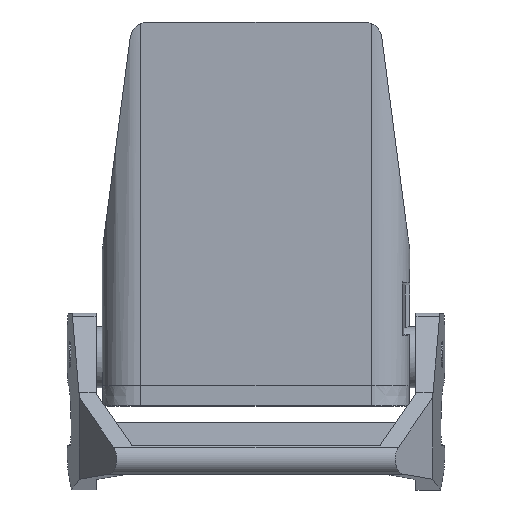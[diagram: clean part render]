
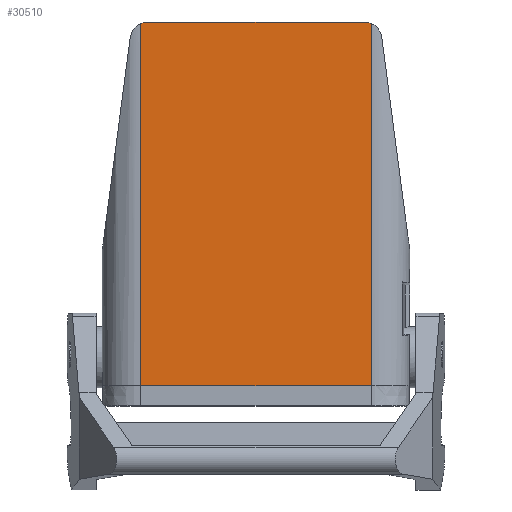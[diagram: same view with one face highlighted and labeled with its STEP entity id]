
A CAD part, top view. The second image highlights one B-rep face of the part: STEP entity #30510.
In plain terms, the highlighted planar face has unit normal (0, -0.014, 1) as drawn and (0, 0.014, 1) by its records, which use the part's own axes.
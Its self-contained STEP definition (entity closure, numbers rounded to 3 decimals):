
#29730=CARTESIAN_POINT('',(22.5,-45.309,
22.904));
#29740=VERTEX_POINT('',#29730);
#29770=CARTESIAN_POINT('',(22.5,25.555,
21.912));
#29780=DIRECTION('',(0.,-1.,
0.014));
#29790=VECTOR('',#29780,1.);
#29800=LINE('',#29770,#29790);
#29810=CARTESIAN_POINT('',(22.5,25.45,
21.913));
#29820=VERTEX_POINT('',#29810);
#29830=EDGE_CURVE('',#29820,#29740,#29800,.T.);
#30030=CARTESIAN_POINT('',(36.,-57.316,
23.072));
#30040=DIRECTION('',(0.,-0.014,
-1.));
#30050=DIRECTION('',(0.,1.,
-0.014));
#30060=AXIS2_PLACEMENT_3D('',#30030,#30040,#30050);
#30070=PLANE('',#30060);
#30080=CARTESIAN_POINT('',(0.,25.45,
21.913));
#30090=DIRECTION('',(-1.,0.,0.));
#30100=VECTOR('',#30090,1.);
#30110=LINE('',#30080,#30100);
#30120=CARTESIAN_POINT('',(-22.5,25.45,
21.913));
#30130=VERTEX_POINT('',#30120);
#30140=EDGE_CURVE('',#29820,#30130,#30110,.T.);
#30150=ORIENTED_EDGE('',*,*,#30140,.T.);
#30160=ORIENTED_EDGE('',*,*,#29830,.F.);
#30170=CARTESIAN_POINT('',(21.103,-42.1,
22.859));
#30180=DIRECTION('',(0.,-0.014,
-1.));
#30190=DIRECTION('',(0.,1.,
-0.014));
#30200=AXIS2_PLACEMENT_3D('',#30170,#30180,#30190);
#30210=ELLIPSE('',#30200,3.5,3.5);
#30220=CARTESIAN_POINT('',(21.103,-45.6,
22.908));
#30230=VERTEX_POINT('',#30220);
#30240=EDGE_CURVE('',#29740,#30230,#30210,.T.);
#30250=ORIENTED_EDGE('',*,*,#30240,.F.);
#30260=CARTESIAN_POINT('',(0.,-45.6,
22.908));
#30270=DIRECTION('',(-1.,0.,0.));
#30280=VECTOR('',#30270,1.);
#30290=LINE('',#30260,#30280);
#30300=CARTESIAN_POINT('',(-21.103,-45.6,
22.908));
#30310=VERTEX_POINT('',#30300);
#30320=EDGE_CURVE('',#30230,#30310,#30290,.T.);
#30330=ORIENTED_EDGE('',*,*,#30320,.F.);
#30340=CARTESIAN_POINT('',(-21.103,-42.1,
22.859));
#30350=DIRECTION('',(0.,-0.014,
-1.));
#30360=DIRECTION('',(0.,1.,
-0.014));
#30370=AXIS2_PLACEMENT_3D('',#30340,#30350,#30360);
#30380=ELLIPSE('',#30370,3.5,3.5);
#30390=CARTESIAN_POINT('',(-22.5,-45.309,
22.904));
#30400=VERTEX_POINT('',#30390);
#30410=EDGE_CURVE('',#30310,#30400,#30380,.T.);
#30420=ORIENTED_EDGE('',*,*,#30410,.F.);
#30430=CARTESIAN_POINT('',(-22.5,25.555,
21.912));
#30440=DIRECTION('',(0.,1.,
-0.014));
#30450=VECTOR('',#30440,1.);
#30460=LINE('',#30430,#30450);
#30470=EDGE_CURVE('',#30400,#30130,#30460,.T.);
#30480=ORIENTED_EDGE('',*,*,#30470,.F.);
#30490=EDGE_LOOP('',(#30480,#30420,#30330,#30250,#30160,#30150));
#30500=FACE_OUTER_BOUND('',#30490,.T.);
#30510=ADVANCED_FACE('',(#30500),#30070,.F.);
